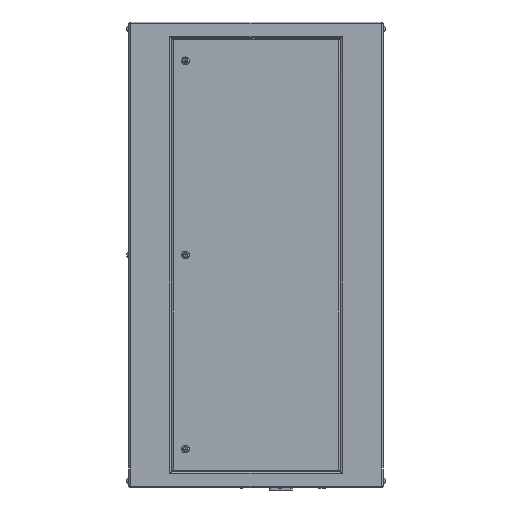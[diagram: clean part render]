
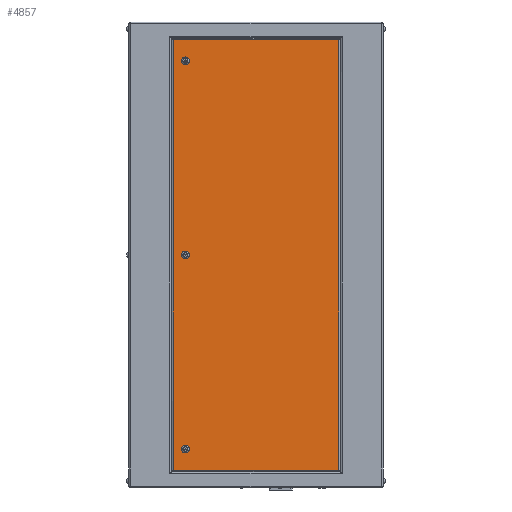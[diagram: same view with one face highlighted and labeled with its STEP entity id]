
A CAD part, left-side view. The second image highlights one B-rep face of the part: STEP entity #4857.
In plain terms, the highlighted planar face has unit normal (-1, 0, 0).
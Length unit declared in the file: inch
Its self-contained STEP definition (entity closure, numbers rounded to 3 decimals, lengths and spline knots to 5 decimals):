
#12 = EDGE_CURVE ( 'NONE', #25813, #25541, #3670, .T. ) ;
#133 = CIRCLE ( 'NONE', #7757, 0.55 ) ;
#177 = CARTESIAN_POINT ( 'NONE',  ( -18.5, 10., -27.5 ) ) ;
#201 = VECTOR ( 'NONE', #3475, 39.37008 ) ;
#431 = FACE_BOUND ( 'NONE', #1096, .T. ) ;
#859 = CARTESIAN_POINT ( 'NONE',  ( -18.5, 18., -30.49 ) ) ;
#1096 = EDGE_LOOP ( 'NONE', ( #25634, #23505 ) ) ;
#1356 = EDGE_CURVE ( 'NONE', #25541, #22159, #18909, .T. ) ;
#1898 = CARTESIAN_POINT ( 'NONE',  ( -18.5, 10., 28.05 ) ) ;
#1985 = EDGE_CURVE ( 'NONE', #19449, #32588, #30789, .T. ) ;
#2024 = CARTESIAN_POINT ( 'NONE',  ( -18.5, 10., 0. ) ) ;
#2287 = DIRECTION ( 'NONE',  ( 0., 0., -1. ) ) ;
#3475 = DIRECTION ( 'NONE',  ( 0., -1., 0. ) ) ;
#3670 = LINE ( 'NONE', #859, #201 ) ;
#3980 = PLANE ( 'NONE',  #22603 ) ;
#4304 = VERTEX_POINT ( 'NONE', #30520 ) ;
#4857 = ADVANCED_FACE ( 'NONE', ( #33396, #431, #37295, #28059 ), #3980, .F. ) ;
#5216 = ORIENTED_EDGE ( 'NONE', *, *, #21353, .T. ) ;
#5347 = CARTESIAN_POINT ( 'NONE',  ( -18.5, 10., 27.5 ) ) ;
#5560 = CIRCLE ( 'NONE', #22434, 0.55 ) ;
#6511 = EDGE_CURVE ( 'NONE', #22159, #4304, #6554, .T. ) ;
#6545 = VECTOR ( 'NONE', #2287, 39.37008 ) ;
#6554 = LINE ( 'NONE', #18501, #35229 ) ;
#6995 = ORIENTED_EDGE ( 'NONE', *, *, #6511, .T. ) ;
#7402 = DIRECTION ( 'NONE',  ( 1., 0., 0. ) ) ;
#7488 = DIRECTION ( 'NONE',  ( 1., 0., 0. ) ) ;
#7740 = EDGE_LOOP ( 'NONE', ( #33940, #5216 ) ) ;
#7757 = AXIS2_PLACEMENT_3D ( 'NONE', #28093, #7402, #9754 ) ;
#8217 = EDGE_CURVE ( 'NONE', #32588, #19449, #5560, .T. ) ;
#8536 = DIRECTION ( 'NONE',  ( 0., 0., -1. ) ) ;
#8617 = CARTESIAN_POINT ( 'NONE',  ( -18.5, 11.74, -33. ) ) ;
#8680 = DIRECTION ( 'NONE',  ( 1., 0., 0. ) ) ;
#9475 = VERTEX_POINT ( 'NONE', #16427 ) ;
#9754 = DIRECTION ( 'NONE',  ( 0., 0., -1. ) ) ;
#10904 = CARTESIAN_POINT ( 'NONE',  ( -18.5, 10., 0.55 ) ) ;
#11471 = DIRECTION ( 'NONE',  ( 0., 0., -1. ) ) ;
#11775 = AXIS2_PLACEMENT_3D ( 'NONE', #177, #24492, #8536 ) ;
#12787 = ORIENTED_EDGE ( 'NONE', *, *, #33853, .T. ) ;
#12931 = EDGE_CURVE ( 'NONE', #20777, #22420, #27913, .T. ) ;
#13341 = AXIS2_PLACEMENT_3D ( 'NONE', #37821, #7488, #19415 ) ;
#15391 = CARTESIAN_POINT ( 'NONE',  ( -18.5, 18., -33. ) ) ;
#16036 = CARTESIAN_POINT ( 'NONE',  ( -18.5, 10., -0.55 ) ) ;
#16332 = ORIENTED_EDGE ( 'NONE', *, *, #12, .T. ) ;
#16427 = CARTESIAN_POINT ( 'NONE',  ( -18.5, 10., -26.95 ) ) ;
#16479 = CIRCLE ( 'NONE', #13341, 0.55 ) ;
#16761 = DIRECTION ( 'NONE',  ( 0., 0., 1. ) ) ;
#17436 = LINE ( 'NONE', #8617, #6545 ) ;
#17548 = EDGE_LOOP ( 'NONE', ( #22418, #12787 ) ) ;
#17605 = ORIENTED_EDGE ( 'NONE', *, *, #34953, .T. ) ;
#18501 = CARTESIAN_POINT ( 'NONE',  ( -18.5, 18., 30.49 ) ) ;
#18909 = LINE ( 'NONE', #21909, #24620 ) ;
#19415 = DIRECTION ( 'NONE',  ( 0., 0., -1. ) ) ;
#19449 = VERTEX_POINT ( 'NONE', #10904 ) ;
#19526 = VERTEX_POINT ( 'NONE', #31808 ) ;
#20124 = DIRECTION ( 'NONE',  ( 1., 0., 0. ) ) ;
#20777 = VERTEX_POINT ( 'NONE', #34151 ) ;
#21133 = CARTESIAN_POINT ( 'NONE',  ( -18.5, -11.74, -30.49 ) ) ;
#21284 = DIRECTION ( 'NONE',  ( 0., 1., 0. ) ) ;
#21353 = EDGE_CURVE ( 'NONE', #9475, #19526, #133, .T. ) ;
#21909 = CARTESIAN_POINT ( 'NONE',  ( -18.5, -11.74, -33. ) ) ;
#22159 = VERTEX_POINT ( 'NONE', #27019 ) ;
#22418 = ORIENTED_EDGE ( 'NONE', *, *, #12931, .T. ) ;
#22420 = VERTEX_POINT ( 'NONE', #1898 ) ;
#22434 = AXIS2_PLACEMENT_3D ( 'NONE', #2024, #20124, #29254 ) ;
#22593 = AXIS2_PLACEMENT_3D ( 'NONE', #27004, #8680, #38995 ) ;
#22603 = AXIS2_PLACEMENT_3D ( 'NONE', #15391, #27867, #33577 ) ;
#23505 = ORIENTED_EDGE ( 'NONE', *, *, #1985, .T. ) ;
#24066 = DIRECTION ( 'NONE',  ( 1., 0., 0. ) ) ;
#24492 = DIRECTION ( 'NONE',  ( 1., 0., 0. ) ) ;
#24620 = VECTOR ( 'NONE', #16761, 39.37008 ) ;
#25541 = VERTEX_POINT ( 'NONE', #21133 ) ;
#25634 = ORIENTED_EDGE ( 'NONE', *, *, #8217, .T. ) ;
#25813 = VERTEX_POINT ( 'NONE', #28666 ) ;
#27004 = CARTESIAN_POINT ( 'NONE',  ( -18.5, 10., 0. ) ) ;
#27019 = CARTESIAN_POINT ( 'NONE',  ( -18.5, -11.74, 30.49 ) ) ;
#27867 = DIRECTION ( 'NONE',  ( 1., 0., 0. ) ) ;
#27913 = CIRCLE ( 'NONE', #32953, 0.55 ) ;
#28059 = FACE_OUTER_BOUND ( 'NONE', #34641, .T. ) ;
#28093 = CARTESIAN_POINT ( 'NONE',  ( -18.5, 10., -27.5 ) ) ;
#28666 = CARTESIAN_POINT ( 'NONE',  ( -18.5, 11.74, -30.49 ) ) ;
#29254 = DIRECTION ( 'NONE',  ( 0., 0., -1. ) ) ;
#30053 = CIRCLE ( 'NONE', #11775, 0.55 ) ;
#30520 = CARTESIAN_POINT ( 'NONE',  ( -18.5, 11.74, 30.49 ) ) ;
#30789 = CIRCLE ( 'NONE', #22593, 0.55 ) ;
#31808 = CARTESIAN_POINT ( 'NONE',  ( -18.5, 10., -28.05 ) ) ;
#32105 = EDGE_CURVE ( 'NONE', #19526, #9475, #30053, .T. ) ;
#32588 = VERTEX_POINT ( 'NONE', #16036 ) ;
#32953 = AXIS2_PLACEMENT_3D ( 'NONE', #5347, #24066, #11471 ) ;
#33396 = FACE_BOUND ( 'NONE', #7740, .T. ) ;
#33577 = DIRECTION ( 'NONE',  ( 0., 0., -1. ) ) ;
#33853 = EDGE_CURVE ( 'NONE', #22420, #20777, #16479, .T. ) ;
#33940 = ORIENTED_EDGE ( 'NONE', *, *, #32105, .T. ) ;
#34151 = CARTESIAN_POINT ( 'NONE',  ( -18.5, 10., 26.95 ) ) ;
#34641 = EDGE_LOOP ( 'NONE', ( #16332, #38884, #6995, #17605 ) ) ;
#34953 = EDGE_CURVE ( 'NONE', #4304, #25813, #17436, .T. ) ;
#35229 = VECTOR ( 'NONE', #21284, 39.37008 ) ;
#37295 = FACE_BOUND ( 'NONE', #17548, .T. ) ;
#37821 = CARTESIAN_POINT ( 'NONE',  ( -18.5, 10., 27.5 ) ) ;
#38884 = ORIENTED_EDGE ( 'NONE', *, *, #1356, .T. ) ;
#38995 = DIRECTION ( 'NONE',  ( 0., 0., -1. ) ) ;
